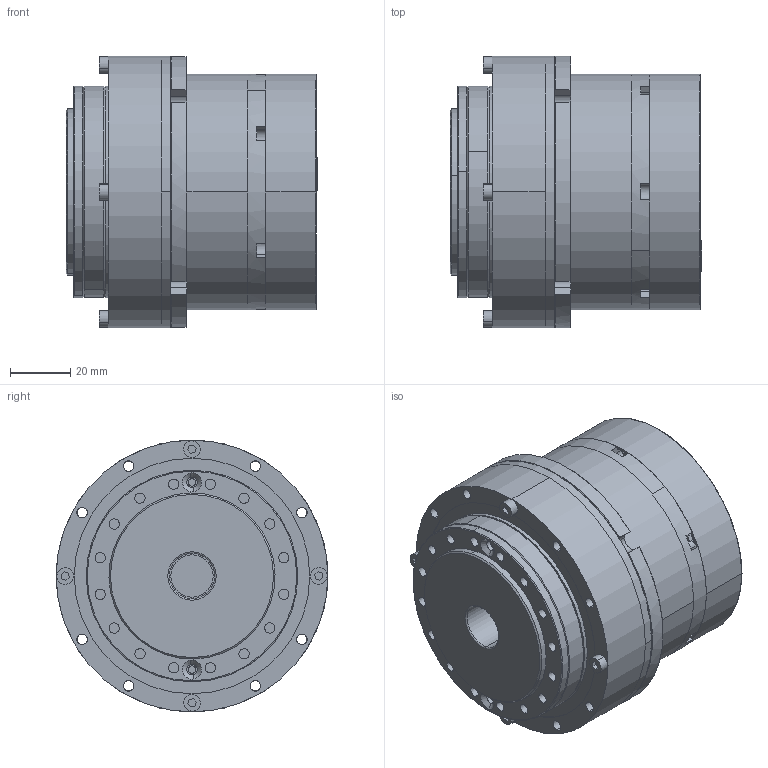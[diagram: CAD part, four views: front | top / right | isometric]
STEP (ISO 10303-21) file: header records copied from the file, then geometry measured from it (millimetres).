
FILE_DESCRIPTION (( 'STEP AP203' ), '1' );
FILE_NAME ('1MT.055.021（RH-20-100-E-N 一体化谐波减速模组-双编+ECAT）.STEP', '2024-10-30T03:49:47', ( '' ), ( '' ), 'SwSTEP 2.0', 'SolidWorks 2020', '' );
FILE_SCHEMA (( 'CONFIG_CONTROL_DESIGN' ));
Length unit declared in the file: millimetre
Products named in the file (1): 1MT.055.021（RH-20-100-E-N 一体化谐波减速模组-双编+ECAT）
Bounding box: 83.36 x 90 x 90 mm (x, y, z)
Surface area: 67506.5 mm2 (no closed solid volume)
Topology: 0 solids, 61 shells, 658 faces, 3295 edges, 2679 vertices
Faces by surface type: plane 388, cylinder 210, cone 36, bspline 16, torus 8
Entity records: 33678 total; most frequent: CARTESIAN_POINT 7445, DIRECTION 5450, ORIENTED_EDGE 4497, EDGE_CURVE 3295, VERTEX_POINT 2679, LINE 2154, VECTOR 2154, AXIS2_PLACEMENT_3D 1648
